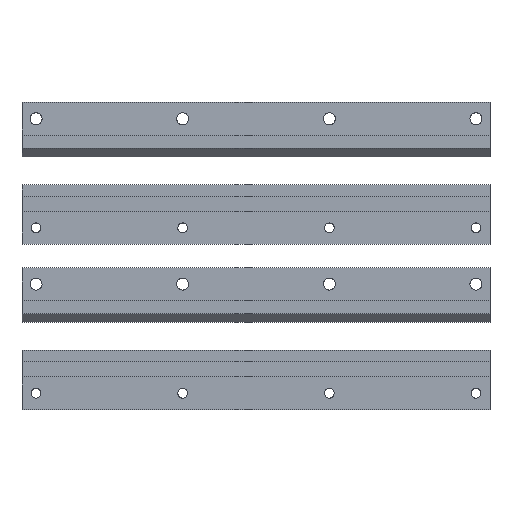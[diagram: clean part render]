
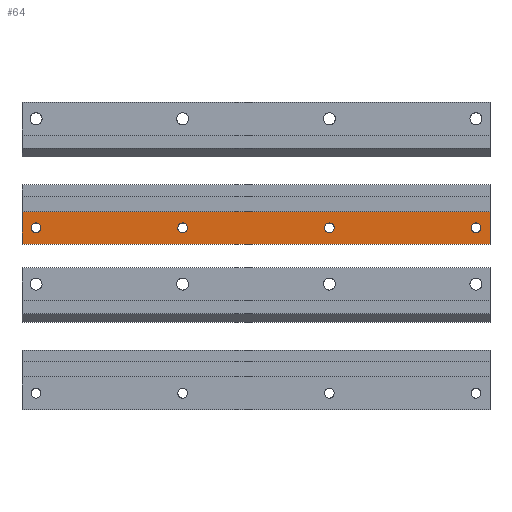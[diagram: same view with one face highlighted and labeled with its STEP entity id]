
A CAD part, top view. The second image highlights one B-rep face of the part: STEP entity #64.
In plain terms, the highlighted planar face has unit normal (0, 0, 1).
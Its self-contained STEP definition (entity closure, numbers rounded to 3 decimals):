
#28=FACE_BOUND('',#209,.T.);
#29=FACE_BOUND('',#210,.T.);
#30=FACE_BOUND('',#211,.T.);
#31=FACE_BOUND('',#212,.T.);
#64=ADVANCED_FACE('',(#134,#28,#29,#30,#31),#1206,.T.);
#134=FACE_OUTER_BOUND('',#208,.T.);
#208=EDGE_LOOP('',(#346,#347,#348,#349));
#209=EDGE_LOOP('',(#350,#351));
#210=EDGE_LOOP('',(#352,#353));
#211=EDGE_LOOP('',(#354,#355));
#212=EDGE_LOOP('',(#356,#357));
#346=ORIENTED_EDGE('',*,*,#692,.T.);
#347=ORIENTED_EDGE('',*,*,#672,.F.);
#348=ORIENTED_EDGE('',*,*,#691,.F.);
#349=ORIENTED_EDGE('',*,*,#684,.F.);
#350=ORIENTED_EDGE('',*,*,#696,.T.);
#351=ORIENTED_EDGE('',*,*,#708,.T.);
#352=ORIENTED_EDGE('',*,*,#699,.T.);
#353=ORIENTED_EDGE('',*,*,#711,.T.);
#354=ORIENTED_EDGE('',*,*,#702,.T.);
#355=ORIENTED_EDGE('',*,*,#714,.T.);
#356=ORIENTED_EDGE('',*,*,#705,.T.);
#357=ORIENTED_EDGE('',*,*,#717,.T.);
#672=EDGE_CURVE('',#1044,#1043,#954,.T.);
#684=EDGE_CURVE('',#1056,#1055,#966,.T.);
#691=EDGE_CURVE('',#1055,#1044,#973,.T.);
#692=EDGE_CURVE('',#1056,#1043,#974,.T.);
#696=EDGE_CURVE('',#1059,#1066,#858,.T.);
#699=EDGE_CURVE('',#1061,#1068,#861,.T.);
#702=EDGE_CURVE('',#1063,#1070,#864,.T.);
#705=EDGE_CURVE('',#1065,#1072,#867,.T.);
#708=EDGE_CURVE('',#1066,#1059,#870,.T.);
#711=EDGE_CURVE('',#1068,#1061,#873,.T.);
#714=EDGE_CURVE('',#1070,#1063,#876,.T.);
#717=EDGE_CURVE('',#1072,#1065,#879,.T.);
#858=(
BOUNDED_CURVE()
B_SPLINE_CURVE(2,(#1515,#1516,#1517,#1518,#1519),.UNSPECIFIED.,.F.,.F.)
B_SPLINE_CURVE_WITH_KNOTS((3,2,3),(-13.195,-9.896,
-6.597),.UNSPECIFIED.)
CURVE()
GEOMETRIC_REPRESENTATION_ITEM()
RATIONAL_B_SPLINE_CURVE((1.,0.707,1.,0.707,1.))
REPRESENTATION_ITEM('')
);
#861=(
BOUNDED_CURVE()
B_SPLINE_CURVE(2,(#1527,#1528,#1529,#1530,#1531),.UNSPECIFIED.,.F.,.F.)
B_SPLINE_CURVE_WITH_KNOTS((3,2,3),(-13.195,-9.896,
-6.597),.UNSPECIFIED.)
CURVE()
GEOMETRIC_REPRESENTATION_ITEM()
RATIONAL_B_SPLINE_CURVE((1.,0.707,1.,0.707,1.))
REPRESENTATION_ITEM('')
);
#864=(
BOUNDED_CURVE()
B_SPLINE_CURVE(2,(#1539,#1540,#1541,#1542,#1543),.UNSPECIFIED.,.F.,.F.)
B_SPLINE_CURVE_WITH_KNOTS((3,2,3),(-13.195,-9.896,
-6.597),.UNSPECIFIED.)
CURVE()
GEOMETRIC_REPRESENTATION_ITEM()
RATIONAL_B_SPLINE_CURVE((1.,0.707,1.,0.707,1.))
REPRESENTATION_ITEM('')
);
#867=(
BOUNDED_CURVE()
B_SPLINE_CURVE(2,(#1551,#1552,#1553,#1554,#1555),.UNSPECIFIED.,.F.,.F.)
B_SPLINE_CURVE_WITH_KNOTS((3,2,3),(-13.195,-9.896,
-6.597),.UNSPECIFIED.)
CURVE()
GEOMETRIC_REPRESENTATION_ITEM()
RATIONAL_B_SPLINE_CURVE((1.,0.707,1.,0.707,1.))
REPRESENTATION_ITEM('')
);
#870=(
BOUNDED_CURVE()
B_SPLINE_CURVE(2,(#1563,#1564,#1565,#1566,#1567),.UNSPECIFIED.,.F.,.F.)
B_SPLINE_CURVE_WITH_KNOTS((3,2,3),(-6.597,-3.299,
0.),.UNSPECIFIED.)
CURVE()
GEOMETRIC_REPRESENTATION_ITEM()
RATIONAL_B_SPLINE_CURVE((1.,0.707,1.,0.707,1.))
REPRESENTATION_ITEM('')
);
#873=(
BOUNDED_CURVE()
B_SPLINE_CURVE(2,(#1575,#1576,#1577,#1578,#1579),.UNSPECIFIED.,.F.,.F.)
B_SPLINE_CURVE_WITH_KNOTS((3,2,3),(-6.597,-3.299,
0.),.UNSPECIFIED.)
CURVE()
GEOMETRIC_REPRESENTATION_ITEM()
RATIONAL_B_SPLINE_CURVE((1.,0.707,1.,0.707,1.))
REPRESENTATION_ITEM('')
);
#876=(
BOUNDED_CURVE()
B_SPLINE_CURVE(2,(#1587,#1588,#1589,#1590,#1591),.UNSPECIFIED.,.F.,.F.)
B_SPLINE_CURVE_WITH_KNOTS((3,2,3),(-6.597,-3.299,
0.),.UNSPECIFIED.)
CURVE()
GEOMETRIC_REPRESENTATION_ITEM()
RATIONAL_B_SPLINE_CURVE((1.,0.707,1.,0.707,1.))
REPRESENTATION_ITEM('')
);
#879=(
BOUNDED_CURVE()
B_SPLINE_CURVE(2,(#1599,#1600,#1601,#1602,#1603),.UNSPECIFIED.,.F.,.F.)
B_SPLINE_CURVE_WITH_KNOTS((3,2,3),(-6.597,-3.299,
0.),.UNSPECIFIED.)
CURVE()
GEOMETRIC_REPRESENTATION_ITEM()
RATIONAL_B_SPLINE_CURVE((1.,0.707,1.,0.707,1.))
REPRESENTATION_ITEM('')
);
#954=B_SPLINE_CURVE_WITH_KNOTS('',1,(#1464,#1465),.UNSPECIFIED.,.F.,.F.,
(2,2),(13.,14.),.UNSPECIFIED.);
#966=B_SPLINE_CURVE_WITH_KNOTS('',1,(#1488,#1489),.UNSPECIFIED.,.F.,.F.,
(2,2),(2.,3.),.UNSPECIFIED.);
#973=B_SPLINE_CURVE_WITH_KNOTS('',1,(#1502,#1503),.UNSPECIFIED.,.F.,.F.,
(2,2),(0.,200.),.UNSPECIFIED.);
#974=B_SPLINE_CURVE_WITH_KNOTS('',1,(#1504,#1505),.UNSPECIFIED.,.F.,.F.,
(2,2),(0.,200.),.UNSPECIFIED.);
#1043=VERTEX_POINT('',#1429);
#1044=VERTEX_POINT('',#1430);
#1055=VERTEX_POINT('',#1441);
#1056=VERTEX_POINT('',#1442);
#1059=VERTEX_POINT('',#1445);
#1061=VERTEX_POINT('',#1447);
#1063=VERTEX_POINT('',#1449);
#1065=VERTEX_POINT('',#1451);
#1066=VERTEX_POINT('',#1452);
#1068=VERTEX_POINT('',#1454);
#1070=VERTEX_POINT('',#1456);
#1072=VERTEX_POINT('',#1458);
#1206=PLANE('',#1264);
#1264=AXIS2_PLACEMENT_3D('',#1346,#1305,$);
#1305=DIRECTION('',(0.,0.,1.));
#1346=CARTESIAN_POINT('',(-5.013,-287.628,9.5));
#1429=CARTESIAN_POINT('',(194.987,-301.628,9.5));
#1430=CARTESIAN_POINT('',(194.987,-287.628,9.5));
#1441=CARTESIAN_POINT('',(-5.013,-287.628,9.5));
#1442=CARTESIAN_POINT('',(-5.013,-301.628,9.5));
#1445=CARTESIAN_POINT('',(3.087,-294.628,9.5));
#1447=CARTESIAN_POINT('',(65.754,-294.628,9.5));
#1449=CARTESIAN_POINT('',(128.421,-294.628,9.5));
#1451=CARTESIAN_POINT('',(191.087,-294.628,9.5));
#1452=CARTESIAN_POINT('',(-1.113,-294.628,9.5));
#1454=CARTESIAN_POINT('',(61.554,-294.628,9.5));
#1456=CARTESIAN_POINT('',(124.221,-294.628,9.5));
#1458=CARTESIAN_POINT('',(186.887,-294.628,9.5));
#1464=CARTESIAN_POINT('',(194.987,-287.628,9.5));
#1465=CARTESIAN_POINT('',(194.987,-301.628,9.5));
#1488=CARTESIAN_POINT('',(-5.013,-301.628,9.5));
#1489=CARTESIAN_POINT('',(-5.013,-287.628,9.5));
#1502=CARTESIAN_POINT('',(-5.013,-287.628,9.5));
#1503=CARTESIAN_POINT('',(194.987,-287.628,9.5));
#1504=CARTESIAN_POINT('',(-5.013,-301.628,9.5));
#1505=CARTESIAN_POINT('',(194.987,-301.628,9.5));
#1515=CARTESIAN_POINT('',(3.087,-294.628,9.5));
#1516=CARTESIAN_POINT('',(3.087,-296.728,9.5));
#1517=CARTESIAN_POINT('',(0.987,-296.728,9.5));
#1518=CARTESIAN_POINT('',(-1.113,-296.728,9.5));
#1519=CARTESIAN_POINT('',(-1.113,-294.628,9.5));
#1527=CARTESIAN_POINT('',(65.754,-294.628,9.5));
#1528=CARTESIAN_POINT('',(65.754,-296.728,9.5));
#1529=CARTESIAN_POINT('',(63.654,-296.728,9.5));
#1530=CARTESIAN_POINT('',(61.554,-296.728,9.5));
#1531=CARTESIAN_POINT('',(61.554,-294.628,9.5));
#1539=CARTESIAN_POINT('',(128.421,-294.628,9.5));
#1540=CARTESIAN_POINT('',(128.421,-296.728,9.5));
#1541=CARTESIAN_POINT('',(126.321,-296.728,9.5));
#1542=CARTESIAN_POINT('',(124.221,-296.728,9.5));
#1543=CARTESIAN_POINT('',(124.221,-294.628,9.5));
#1551=CARTESIAN_POINT('',(191.087,-294.628,9.5));
#1552=CARTESIAN_POINT('',(191.087,-296.728,9.5));
#1553=CARTESIAN_POINT('',(188.987,-296.728,9.5));
#1554=CARTESIAN_POINT('',(186.887,-296.728,9.5));
#1555=CARTESIAN_POINT('',(186.887,-294.628,9.5));
#1563=CARTESIAN_POINT('',(-1.113,-294.628,9.5));
#1564=CARTESIAN_POINT('',(-1.113,-292.528,9.5));
#1565=CARTESIAN_POINT('',(0.987,-292.528,9.5));
#1566=CARTESIAN_POINT('',(3.087,-292.528,9.5));
#1567=CARTESIAN_POINT('',(3.087,-294.628,9.5));
#1575=CARTESIAN_POINT('',(61.554,-294.628,9.5));
#1576=CARTESIAN_POINT('',(61.554,-292.528,9.5));
#1577=CARTESIAN_POINT('',(63.654,-292.528,9.5));
#1578=CARTESIAN_POINT('',(65.754,-292.528,9.5));
#1579=CARTESIAN_POINT('',(65.754,-294.628,9.5));
#1587=CARTESIAN_POINT('',(124.221,-294.628,9.5));
#1588=CARTESIAN_POINT('',(124.221,-292.528,9.5));
#1589=CARTESIAN_POINT('',(126.321,-292.528,9.5));
#1590=CARTESIAN_POINT('',(128.421,-292.528,9.5));
#1591=CARTESIAN_POINT('',(128.421,-294.628,9.5));
#1599=CARTESIAN_POINT('',(186.887,-294.628,9.5));
#1600=CARTESIAN_POINT('',(186.887,-292.528,9.5));
#1601=CARTESIAN_POINT('',(188.987,-292.528,9.5));
#1602=CARTESIAN_POINT('',(191.087,-292.528,9.5));
#1603=CARTESIAN_POINT('',(191.087,-294.628,9.5));
